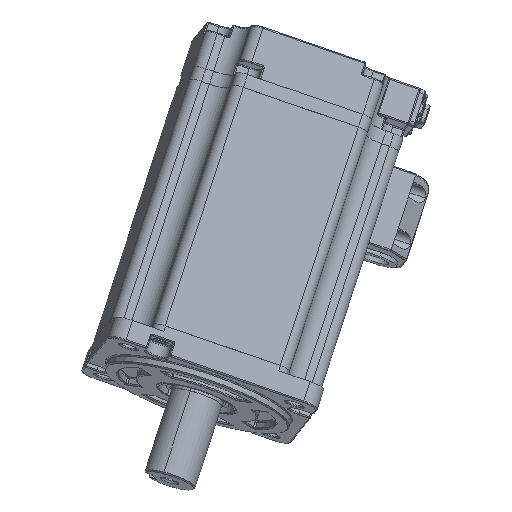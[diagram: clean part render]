
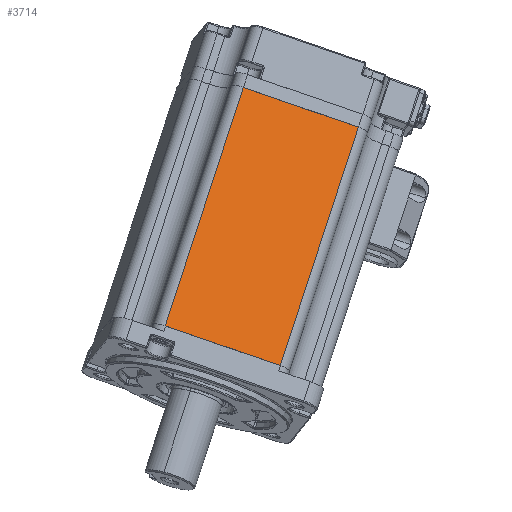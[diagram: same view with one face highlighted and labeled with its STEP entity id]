
A CAD part, top view. The second image highlights one B-rep face of the part: STEP entity #3714.
In plain terms, the highlighted planar face has unit normal (0.138, 0.17, 0.976) as drawn and (0, -1, 0) by its records, which use the part's own axes.
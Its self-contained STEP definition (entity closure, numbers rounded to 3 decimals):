
#2254 = CARTESIAN_POINT ( 'NONE',  ( 22., -40., 92.5 ) ) ;
#3714 = ADVANCED_FACE ( 'NONE', ( #71987 ), #156119, .F. ) ;
#4990 = EDGE_CURVE ( 'NONE', #38328, #103506, #58128, .T. ) ;
#5236 = EDGE_CURVE ( 'NONE', #27341, #40002, #157522, .T. ) ;
#8236 = DIRECTION ( 'NONE',  ( 1., 0., 0. ) ) ;
#11881 = VECTOR ( 'NONE', #131452, 1000. ) ;
#18479 = CARTESIAN_POINT ( 'NONE',  ( 22., -40., 92.5 ) ) ;
#27341 = VERTEX_POINT ( 'NONE', #18479 ) ;
#34577 = DIRECTION ( 'NONE',  ( 1., 0., 0. ) ) ;
#38328 = VERTEX_POINT ( 'NONE', #97344 ) ;
#40002 = VERTEX_POINT ( 'NONE', #102609 ) ;
#40629 = LINE ( 'NONE', #82270, #153733 ) ;
#47161 = CARTESIAN_POINT ( 'NONE',  ( -22., -40., 0. ) ) ;
#58128 = LINE ( 'NONE', #82243, #11881 ) ;
#66349 = EDGE_CURVE ( 'NONE', #38328, #27341, #94680, .T. ) ;
#68461 = AXIS2_PLACEMENT_3D ( 'NONE', #107249, #109337, #120699 ) ;
#69572 = EDGE_LOOP ( 'NONE', ( #132895, #121174, #123080, #94065 ) ) ;
#71987 = FACE_OUTER_BOUND ( 'NONE', #69572, .T. ) ;
#82243 = CARTESIAN_POINT ( 'NONE',  ( -22., -40., 92.5 ) ) ;
#82270 = CARTESIAN_POINT ( 'NONE',  ( -22., -40., 0. ) ) ;
#88026 = DIRECTION ( 'NONE',  ( 0., 0., -1. ) ) ;
#94065 = ORIENTED_EDGE ( 'NONE', *, *, #4990, .T. ) ;
#94680 = LINE ( 'NONE', #105742, #104130 ) ;
#96140 = EDGE_CURVE ( 'NONE', #103506, #40002, #40629, .T. ) ;
#97344 = CARTESIAN_POINT ( 'NONE',  ( -22., -40., 92.5 ) ) ;
#102609 = CARTESIAN_POINT ( 'NONE',  ( 22., -40., 0. ) ) ;
#103506 = VERTEX_POINT ( 'NONE', #47161 ) ;
#104130 = VECTOR ( 'NONE', #8236, 1000. ) ;
#105742 = CARTESIAN_POINT ( 'NONE',  ( -22., -40., 92.5 ) ) ;
#107249 = CARTESIAN_POINT ( 'NONE',  ( -22., -40., 92.5 ) ) ;
#109337 = DIRECTION ( 'NONE',  ( 0., 1., 0. ) ) ;
#119154 = VECTOR ( 'NONE', #88026, 1000. ) ;
#120699 = DIRECTION ( 'NONE',  ( 0., 0., 1. ) ) ;
#121174 = ORIENTED_EDGE ( 'NONE', *, *, #5236, .F. ) ;
#123080 = ORIENTED_EDGE ( 'NONE', *, *, #66349, .F. ) ;
#131452 = DIRECTION ( 'NONE',  ( 0., 0., -1. ) ) ;
#132895 = ORIENTED_EDGE ( 'NONE', *, *, #96140, .T. ) ;
#153733 = VECTOR ( 'NONE', #34577, 1000. ) ;
#156119 = PLANE ( 'NONE',  #68461 ) ;
#157522 = LINE ( 'NONE', #2254, #119154 ) ;
